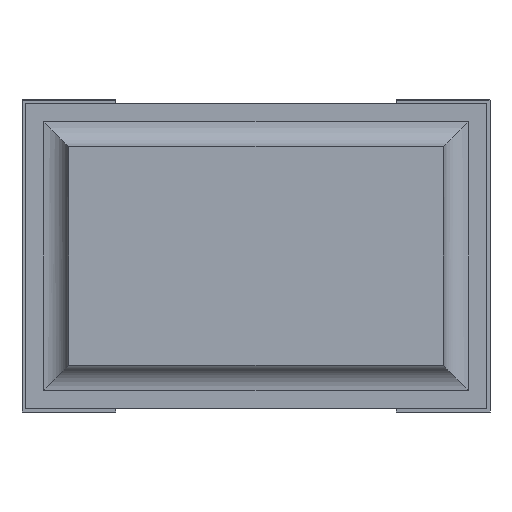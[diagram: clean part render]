
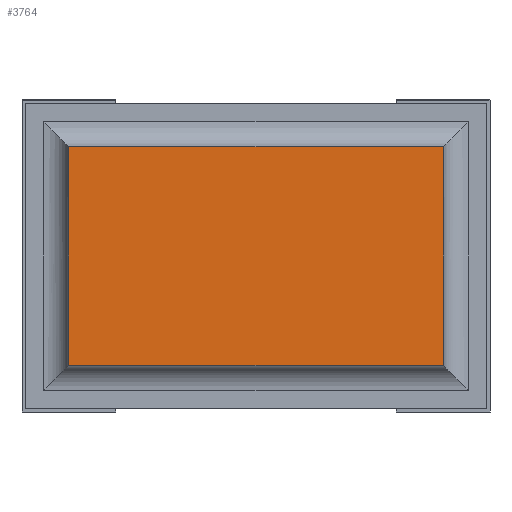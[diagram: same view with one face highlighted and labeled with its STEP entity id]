
A CAD part, front view. The second image highlights one B-rep face of the part: STEP entity #3764.
In plain terms, the highlighted planar face has unit normal (0, -1, 0).
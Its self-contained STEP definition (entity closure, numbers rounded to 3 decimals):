
#53=PLANE('',#4032);
#240=FACE_OUTER_BOUND('',#474,.T.);
#474=EDGE_LOOP('',(#2645,#2646,#2647,#2648));
#721=LINE('',#5382,#1213);
#724=LINE('',#5388,#1216);
#725=LINE('',#5391,#1217);
#726=LINE('',#5392,#1218);
#1213=VECTOR('',#4323,10.);
#1216=VECTOR('',#4328,10.);
#1217=VECTOR('',#4331,10.);
#1218=VECTOR('',#4332,10.);
#1753=VERTEX_POINT('',#5378);
#1754=VERTEX_POINT('',#5380);
#1756=VERTEX_POINT('',#5386);
#1757=VERTEX_POINT('',#5390);
#2099=EDGE_CURVE('',#1753,#1754,#721,.T.);
#2102=EDGE_CURVE('',#1756,#1754,#724,.T.);
#2103=EDGE_CURVE('',#1757,#1756,#725,.T.);
#2104=EDGE_CURVE('',#1753,#1757,#726,.T.);
#2645=ORIENTED_EDGE('',*,*,#2102,.F.);
#2646=ORIENTED_EDGE('',*,*,#2103,.F.);
#2647=ORIENTED_EDGE('',*,*,#2104,.F.);
#2648=ORIENTED_EDGE('',*,*,#2099,.T.);
#3764=ADVANCED_FACE('',(#240),#53,.T.);
#4032=AXIS2_PLACEMENT_3D('',#5389,#4329,#4330);
#4323=DIRECTION('',(0.,0.,-1.));
#4328=DIRECTION('',(-1.,0.,0.));
#4329=DIRECTION('center_axis',(0.,-1.,0.));
#4330=DIRECTION('ref_axis',(0.,0.,-1.));
#4331=DIRECTION('',(0.,0.,-1.));
#4332=DIRECTION('',(1.,0.,0.));
#5378=CARTESIAN_POINT('',(0.075,0.,0.425));
#5380=CARTESIAN_POINT('',(0.075,0.,0.075));
#5382=CARTESIAN_POINT('',(0.075,0.,0.425));
#5386=CARTESIAN_POINT('',(0.675,0.,0.075));
#5388=CARTESIAN_POINT('',(0.675,0.,0.075));
#5389=CARTESIAN_POINT('Origin',(0.676,0.,0.25));
#5390=CARTESIAN_POINT('',(0.675,0.,0.425));
#5391=CARTESIAN_POINT('',(0.675,0.,0.425));
#5392=CARTESIAN_POINT('',(0.075,0.,0.425));
